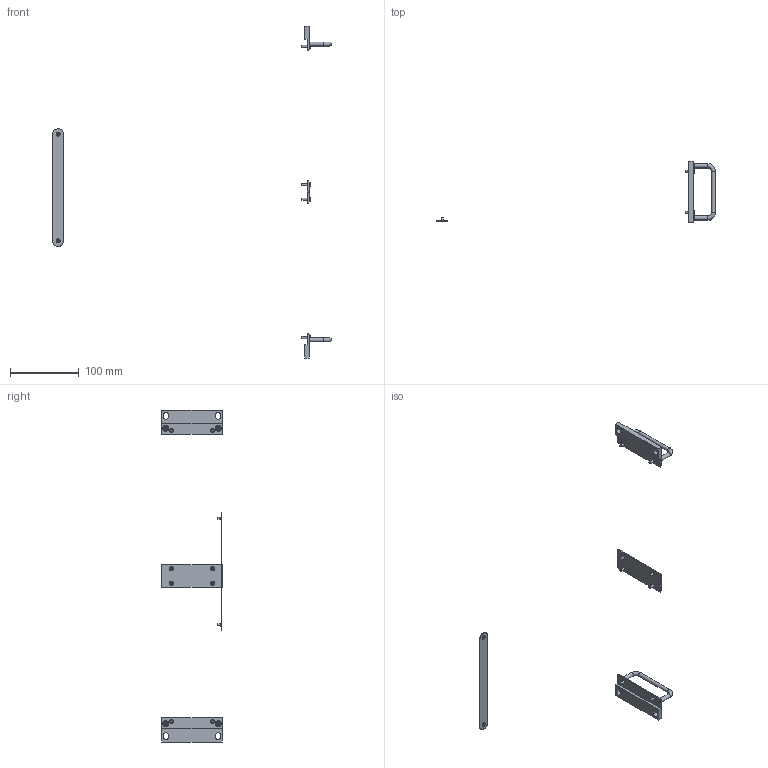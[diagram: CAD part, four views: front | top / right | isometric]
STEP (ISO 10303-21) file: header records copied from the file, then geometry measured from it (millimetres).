
FILE_DESCRIPTION(/* description */ (''),/* implementation_level */ '2;1');
FILE_NAME(/* name */ 'D:\SM800\options\RA19-SM800\presentation\RA19-2SM800-parts_Shrinkwrap_1.stp',/* time_stamp */ '2014-11-20T16:04:15+01:00',/* author */ ('Simon'),/* organization */ (''),/* preprocessor_version */ 'ST-DEVELOPER v15.6',/* originating_system */ 'Autodesk Inventor 2015',/* authorisation */ '');
FILE_SCHEMA (('AUTOMOTIVE_DESIGN { 1 0 10303 214 3 1 1 }'));
Length unit declared in the file: millimetre
Products named in the file (1): RA19-2SM800-parts_Shrinkwrap_1
Bounding box: 405 x 88.1 x 482.5 mm (x, y, z)
Volume: 48548.4 mm3; surface area: 34689.6 mm2
Topology: 4 solids, 4 shells, 514 faces, 1104 edges, 646 vertices
Faces by surface type: plane 318, cone 80, cylinder 78, torus 38
Full cylindrical faces by diameter (mm): 2.5 x2, 2.85 x2, 3 x16, 3.5 x8, 4 x8, 4.2 x4, 4.5 x4, 5.5 x2, 6 x22
Entity records: 12861 total; most frequent: CARTESIAN_POINT 2475, DIRECTION 2034, ORIENTED_EDGE 1836, EDGE_CURVE 918, AXIS2_PLACEMENT_3D 817, EDGE_LOOP 724, VERTEX_POINT 610, STYLED_ITEM 518
